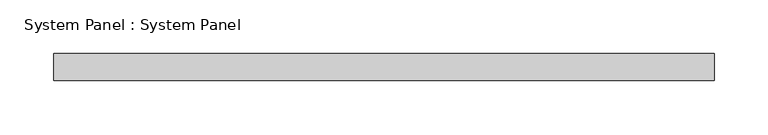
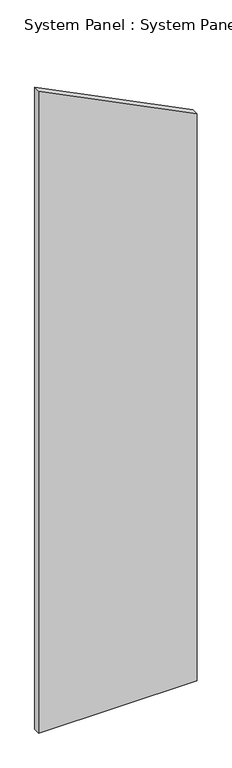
"""IFC4 building model written with IfcOpenShell, lengths in millimetres: plate geometry, System Panel : System Panel."""

from ifc_helpers import new_model, si_unit, frame, origin, place, context, project, spatial, polyline, outline, extrude, source, transform, mapped, element, save


def system_panel_system_panel_0c1b1511(model_context):
    return source(origin(), model_context, "Body", "SweptSolid", [
        extrude(outline(polyline([(0.0, 307.975), (2330.45, 307.975), (2638.425, -307.975), (0.0, -307.975), (0.0, 307.975)])), frame((0.0, 19.05, 0.0), z_axis=(0.0, 1.0, 0.0), x_axis=(0.0, 0.0, 1.0)), (0.0, 0.0, 1.0), 25.4),
    ])


if __name__ == "__main__":
    model = new_model("IFC4")
    model_context = context("Model", 3, world=origin())
    ifc_project = project(units=[si_unit("LENGTHUNIT", "METRE", prefix="MILLI")], contexts=[model_context])
    site = spatial("IfcSite", under=ifc_project)
    building = spatial("IfcBuilding", under=site)
    placement = place(None, origin())
    system_panel_system_panel_shape = system_panel_system_panel_0c1b1511(model_context)
    element("IfcPlate", 1, ObjectType="System Panel : System Panel", at=placement, inside=building, context=model_context, shape_type="MappedRepresentation", body=[
        mapped(system_panel_system_panel_shape, transform((0.0, 0.0, 0.0), x_axis=(1.0, 0.0, 0.0), y_axis=(0.0, 1.0, 0.0), z_axis=(0.0, 0.0, 1.0))),
    ])
    save(model, "model.ifc")
